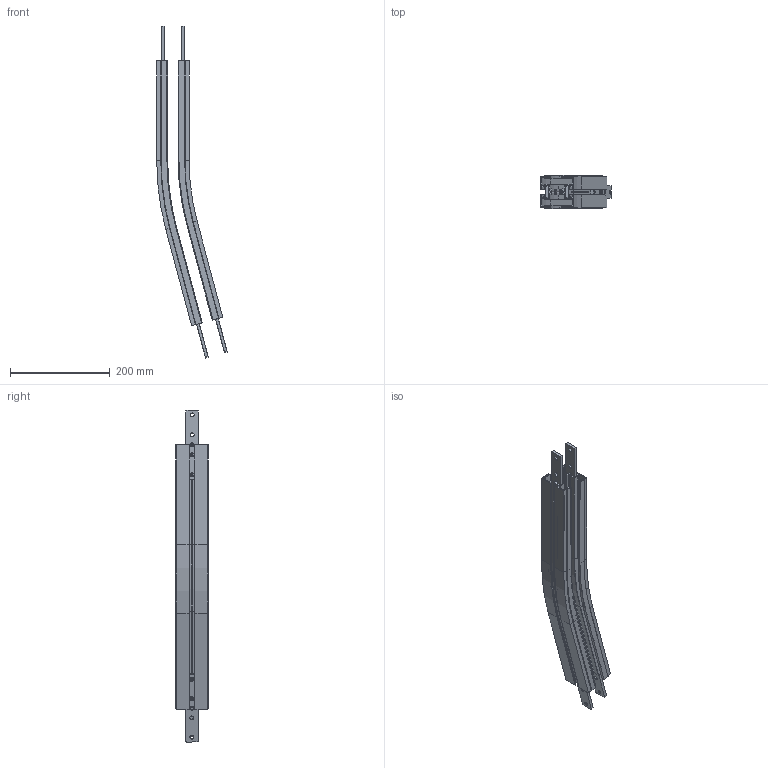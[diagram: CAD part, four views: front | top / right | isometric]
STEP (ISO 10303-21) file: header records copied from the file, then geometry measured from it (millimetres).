
FILE_DESCRIPTION (( 'STEP AP214' ), '1' );
FILE_NAME ('FSHB-15R500.STEP', '2013-04-24T06:06:45', ( 'gs' ), ( 'Microsoft' ), 'SwSTEP 2.0', 'SolidWorks 2012', '' );
FILE_SCHEMA (( 'AUTOMOTIVE_DESIGN' ));
Length unit declared in the file: millimetre
Products named in the file (4): FACS-25.éclisse larg 25mm; FASR-25 U FS_15R500; FSHB R500_15R500; FSHB-15R500
Assembly tree (7 placements, depth 2):
  FSHB-15R500
    FSHB R500_15R500
    FASR-25 U FS_15R500  x2
    FACS-25.éclisse larg 25mm  x4
Bounding box: 141.54 x 66 x 665.93 mm (x, y, z)
Volume: 536916.8 mm3; surface area: 525698.7 mm2
Topology: 14 solids, 14 shells, 711 faces, 1901 edges, 1218 vertices
Faces by surface type: plane 340, cylinder 254, torus 73, cone 44
Entity records: 17010 total; most frequent: DIRECTION 2938, CARTESIAN_POINT 2892, ORIENTED_EDGE 2864, EDGE_CURVE 1432, LINE 986, VECTOR 986, AXIS2_PLACEMENT_3D 976, VERTEX_POINT 930
